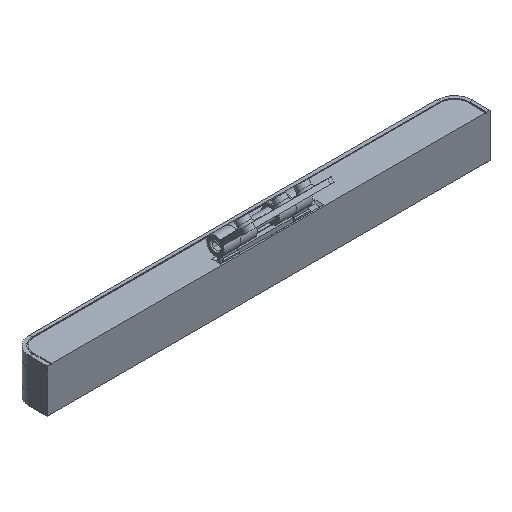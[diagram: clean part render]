
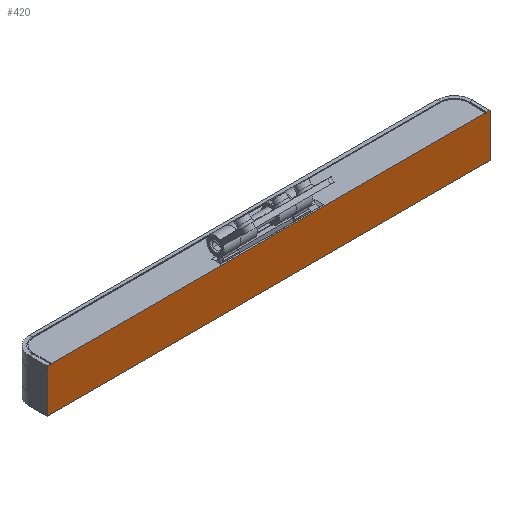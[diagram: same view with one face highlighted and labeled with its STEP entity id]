
A CAD part, isometric view. The second image highlights one B-rep face of the part: STEP entity #420.
In plain terms, the highlighted planar face has unit normal (0, -1, 0).
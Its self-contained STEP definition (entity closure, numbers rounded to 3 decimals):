
#420=ADVANCED_FACE('',(#930),#731,.F.);
#731=PLANE('',#5996);
#930=FACE_OUTER_BOUND('',#1206,.T.);
#1206=EDGE_LOOP('',(#1756,#1757,#1758,#1759,#1760,#1761,#1762,#1763,#1764,
#1765,#1766,#1767,#1768,#1769,#1770,#1771,#1772,#1773,#1774,#1775));
#1756=ORIENTED_EDGE('',*,*,#4060,.F.);
#1757=ORIENTED_EDGE('',*,*,#4061,.F.);
#1758=ORIENTED_EDGE('',*,*,#4062,.T.);
#1759=ORIENTED_EDGE('',*,*,#4063,.T.);
#1760=ORIENTED_EDGE('',*,*,#4064,.F.);
#1761=ORIENTED_EDGE('',*,*,#4065,.T.);
#1762=ORIENTED_EDGE('',*,*,#4066,.F.);
#1763=ORIENTED_EDGE('',*,*,#4067,.F.);
#1764=ORIENTED_EDGE('',*,*,#4068,.F.);
#1765=ORIENTED_EDGE('',*,*,#4069,.F.);
#1766=ORIENTED_EDGE('',*,*,#4070,.F.);
#1767=ORIENTED_EDGE('',*,*,#4071,.F.);
#1768=ORIENTED_EDGE('',*,*,#4072,.T.);
#1769=ORIENTED_EDGE('',*,*,#4073,.F.);
#1770=ORIENTED_EDGE('',*,*,#4074,.F.);
#1771=ORIENTED_EDGE('',*,*,#4075,.T.);
#1772=ORIENTED_EDGE('',*,*,#4076,.F.);
#1773=ORIENTED_EDGE('',*,*,#4077,.F.);
#1774=ORIENTED_EDGE('',*,*,#4078,.F.);
#1775=ORIENTED_EDGE('',*,*,#4079,.T.);
#3478=VERTEX_POINT('',#8222);
#3479=VERTEX_POINT('',#8223);
#3480=VERTEX_POINT('',#8225);
#3481=VERTEX_POINT('',#8227);
#3482=VERTEX_POINT('',#8229);
#3483=VERTEX_POINT('',#8231);
#3484=VERTEX_POINT('',#8233);
#3485=VERTEX_POINT('',#8235);
#3486=VERTEX_POINT('',#8237);
#3487=VERTEX_POINT('',#8239);
#3488=VERTEX_POINT('',#8241);
#3489=VERTEX_POINT('',#8243);
#3490=VERTEX_POINT('',#8245);
#3491=VERTEX_POINT('',#8247);
#3492=VERTEX_POINT('',#8249);
#3493=VERTEX_POINT('',#8251);
#3494=VERTEX_POINT('',#8253);
#3495=VERTEX_POINT('',#8255);
#3496=VERTEX_POINT('',#8257);
#3497=VERTEX_POINT('',#8259);
#4060=EDGE_CURVE('',#3478,#3479,#4913,.T.);
#4061=EDGE_CURVE('',#3480,#3478,#4914,.T.);
#4062=EDGE_CURVE('',#3480,#3481,#4915,.T.);
#4063=EDGE_CURVE('',#3481,#3482,#4916,.T.);
#4064=EDGE_CURVE('',#3483,#3482,#4917,.T.);
#4065=EDGE_CURVE('',#3483,#3484,#4918,.T.);
#4066=EDGE_CURVE('',#3485,#3484,#4919,.T.);
#4067=EDGE_CURVE('',#3486,#3485,#4920,.T.);
#4068=EDGE_CURVE('',#3487,#3486,#4921,.T.);
#4069=EDGE_CURVE('',#3488,#3487,#4922,.T.);
#4070=EDGE_CURVE('',#3489,#3488,#4923,.T.);
#4071=EDGE_CURVE('',#3490,#3489,#4924,.T.);
#4072=EDGE_CURVE('',#3490,#3491,#4925,.T.);
#4073=EDGE_CURVE('',#3492,#3491,#4926,.T.);
#4074=EDGE_CURVE('',#3493,#3492,#4927,.T.);
#4075=EDGE_CURVE('',#3493,#3494,#4928,.T.);
#4076=EDGE_CURVE('',#3495,#3494,#4929,.T.);
#4077=EDGE_CURVE('',#3496,#3495,#4930,.T.);
#4078=EDGE_CURVE('',#3497,#3496,#4931,.T.);
#4079=EDGE_CURVE('',#3497,#3479,#4932,.T.);
#4913=LINE('',#8221,#5461);
#4914=LINE('',#8224,#5462);
#4915=LINE('',#8226,#5463);
#4916=LINE('',#8228,#5464);
#4917=LINE('',#8230,#5465);
#4918=LINE('',#8232,#5466);
#4919=LINE('',#8234,#5467);
#4920=LINE('',#8236,#5468);
#4921=LINE('',#8238,#5469);
#4922=LINE('',#8240,#5470);
#4923=LINE('',#8242,#5471);
#4924=LINE('',#8244,#5472);
#4925=LINE('',#8246,#5473);
#4926=LINE('',#8248,#5474);
#4927=LINE('',#8250,#5475);
#4928=LINE('',#8252,#5476);
#4929=LINE('',#8254,#5477);
#4930=LINE('',#8256,#5478);
#4931=LINE('',#8258,#5479);
#4932=LINE('',#8260,#5480);
#5461=VECTOR('',#6570,1.);
#5462=VECTOR('',#6571,1.);
#5463=VECTOR('',#6572,1.);
#5464=VECTOR('',#6573,1.);
#5465=VECTOR('',#6574,1.);
#5466=VECTOR('',#6575,1.);
#5467=VECTOR('',#6576,1.);
#5468=VECTOR('',#6577,1.);
#5469=VECTOR('',#6578,1.);
#5470=VECTOR('',#6579,1.);
#5471=VECTOR('',#6580,1.);
#5472=VECTOR('',#6581,1.);
#5473=VECTOR('',#6582,1.);
#5474=VECTOR('',#6583,1.);
#5475=VECTOR('',#6584,1.);
#5476=VECTOR('',#6585,1.);
#5477=VECTOR('',#6586,1.);
#5478=VECTOR('',#6587,1.);
#5479=VECTOR('',#6588,1.);
#5480=VECTOR('',#6589,1.);
#5996=AXIS2_PLACEMENT_3D('',#8261,#6590,#6591);
#6570=DIRECTION('',(0.,0.,-1.));
#6571=DIRECTION('',(1.,0.,0.));
#6572=DIRECTION('',(0.,0.,-1.));
#6573=DIRECTION('',(-1.,0.,0.));
#6574=DIRECTION('',(0.,0.,-1.));
#6575=DIRECTION('',(-0.999,0.,-0.035));
#6576=DIRECTION('',(0.,0.,1.));
#6577=DIRECTION('',(-0.999,0.,0.035));
#6578=DIRECTION('',(0.,0.,-1.));
#6579=DIRECTION('',(-1.,0.,0.));
#6580=DIRECTION('',(0.,0.,1.));
#6581=DIRECTION('',(-1.,0.,0.));
#6582=DIRECTION('',(0.,0.,1.));
#6583=DIRECTION('',(-1.,0.,0.));
#6584=DIRECTION('',(0.,0.,1.));
#6585=DIRECTION('',(0.999,0.,0.035));
#6586=DIRECTION('',(0.,0.,-1.));
#6587=DIRECTION('',(0.999,0.,-0.035));
#6588=DIRECTION('',(0.,0.,1.));
#6589=DIRECTION('',(-1.,0.,0.));
#6590=DIRECTION('',(0.,1.,0.));
#6591=DIRECTION('',(1.,0.,0.));
#8221=CARTESIAN_POINT('',(98.1,0.,9.824));
#8222=CARTESIAN_POINT('',(98.1,0.,9.824));
#8223=CARTESIAN_POINT('',(98.1,0.,9.524));
#8224=CARTESIAN_POINT('',(-98.1,0.,9.824));
#8225=CARTESIAN_POINT('',(-98.1,0.,9.824));
#8226=CARTESIAN_POINT('',(-98.1,0.,9.824));
#8227=CARTESIAN_POINT('',(-98.1,0.,9.524));
#8228=CARTESIAN_POINT('',(-98.1,0.,9.524));
#8229=CARTESIAN_POINT('',(-98.5,0.,9.524));
#8230=CARTESIAN_POINT('',(-98.5,0.,9.921));
#8231=CARTESIAN_POINT('',(-98.5,0.,9.921));
#8232=CARTESIAN_POINT('',(-98.5,0.,9.921));
#8233=CARTESIAN_POINT('',(-100.,0.,9.868));
#8234=CARTESIAN_POINT('',(-100.,0.,-9.868));
#8235=CARTESIAN_POINT('',(-100.,0.,-9.868));
#8236=CARTESIAN_POINT('',(-98.5,0.,-9.921));
#8237=CARTESIAN_POINT('',(-98.5,0.,-9.921));
#8238=CARTESIAN_POINT('',(-98.5,0.,9.921));
#8239=CARTESIAN_POINT('',(-98.5,0.,-9.524));
#8240=CARTESIAN_POINT('',(-98.1,0.,-9.524));
#8241=CARTESIAN_POINT('',(-98.1,0.,-9.524));
#8242=CARTESIAN_POINT('',(-98.1,0.,-9.824));
#8243=CARTESIAN_POINT('',(-98.1,0.,-9.824));
#8244=CARTESIAN_POINT('',(98.1,0.,-9.824));
#8245=CARTESIAN_POINT('',(98.1,0.,-9.824));
#8246=CARTESIAN_POINT('',(98.1,0.,-9.824));
#8247=CARTESIAN_POINT('',(98.1,0.,-9.524));
#8248=CARTESIAN_POINT('',(98.4,0.,-9.524));
#8249=CARTESIAN_POINT('',(98.5,0.,-9.524));
#8250=CARTESIAN_POINT('',(98.5,0.,-9.921));
#8251=CARTESIAN_POINT('',(98.5,0.,-9.921));
#8252=CARTESIAN_POINT('',(98.5,0.,-9.921));
#8253=CARTESIAN_POINT('',(100.,0.,-9.868));
#8254=CARTESIAN_POINT('',(100.,0.,9.868));
#8255=CARTESIAN_POINT('',(100.,0.,9.868));
#8256=CARTESIAN_POINT('',(98.5,0.,9.921));
#8257=CARTESIAN_POINT('',(98.5,0.,9.921));
#8258=CARTESIAN_POINT('',(98.5,0.,-9.921));
#8259=CARTESIAN_POINT('',(98.5,0.,9.524));
#8260=CARTESIAN_POINT('',(98.4,0.,9.524));
#8261=CARTESIAN_POINT('',(0.,0.,0.));
